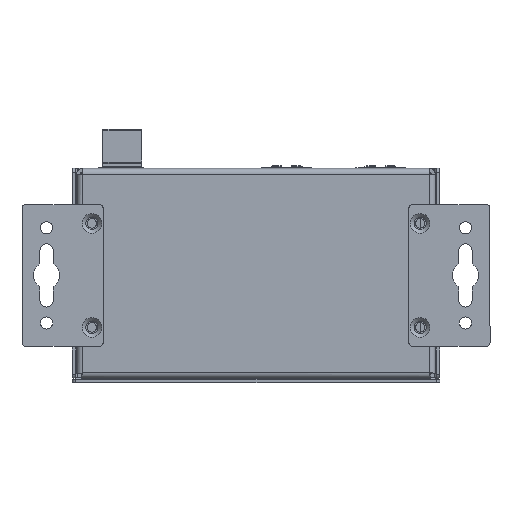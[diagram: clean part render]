
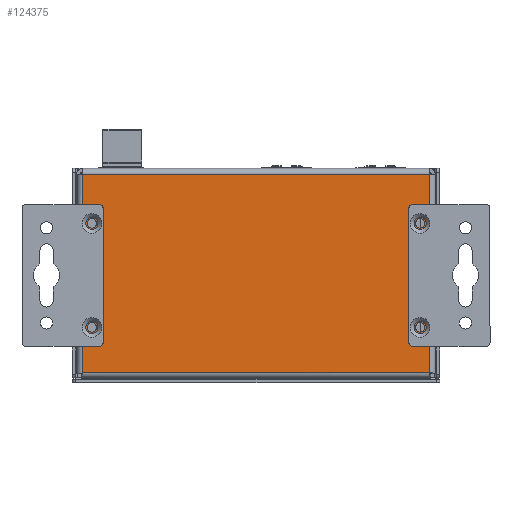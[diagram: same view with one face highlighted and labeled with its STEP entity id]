
A CAD part, front view. The second image highlights one B-rep face of the part: STEP entity #124375.
In plain terms, the highlighted planar face has unit normal (0, -1, 0).
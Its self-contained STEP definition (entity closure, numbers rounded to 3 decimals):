
#3608=FACE_BOUND('',#18688,.T.);
#3609=FACE_BOUND('',#18689,.T.);
#3610=FACE_BOUND('',#18690,.T.);
#3611=FACE_BOUND('',#18691,.T.);
#5963=CIRCLE('',#133597,1.25);
#5964=CIRCLE('',#133598,1.25);
#5965=CIRCLE('',#133599,1.25);
#5966=CIRCLE('',#133600,1.25);
#11814=FACE_OUTER_BOUND('',#18687,.T.);
#18687=EDGE_LOOP('',(#111270,#111271,#111272,#111273,#111274));
#18688=EDGE_LOOP('',(#111275));
#18689=EDGE_LOOP('',(#111276));
#18690=EDGE_LOOP('',(#111277));
#18691=EDGE_LOOP('',(#111278));
#32637=LINE('',#213545,#46989);
#32639=LINE('',#213567,#46991);
#32641=LINE('',#213586,#46993);
#32642=LINE('',#213588,#46994);
#32643=LINE('',#213589,#46995);
#46989=VECTOR('',#164459,10.);
#46991=VECTOR('',#164465,10.);
#46993=VECTOR('',#164469,10.);
#46994=VECTOR('',#164470,10.);
#46995=VECTOR('',#164471,10.);
#58947=VERTEX_POINT('',#213527);
#58948=VERTEX_POINT('',#213544);
#58950=VERTEX_POINT('',#213566);
#58952=VERTEX_POINT('',#213585);
#58953=VERTEX_POINT('',#213587);
#58954=VERTEX_POINT('',#213590);
#58955=VERTEX_POINT('',#213592);
#58956=VERTEX_POINT('',#213594);
#58957=VERTEX_POINT('',#213596);
#76547=EDGE_CURVE('',#58947,#58948,#32637,.T.);
#76551=EDGE_CURVE('',#58950,#58948,#32639,.T.);
#76554=EDGE_CURVE('',#58952,#58947,#32641,.T.);
#76555=EDGE_CURVE('',#58953,#58952,#32642,.T.);
#76556=EDGE_CURVE('',#58953,#58950,#32643,.T.);
#76557=EDGE_CURVE('',#58954,#58954,#5963,.T.);
#76558=EDGE_CURVE('',#58955,#58955,#5964,.T.);
#76559=EDGE_CURVE('',#58956,#58956,#5965,.T.);
#76560=EDGE_CURVE('',#58957,#58957,#5966,.T.);
#111270=ORIENTED_EDGE('',*,*,#76547,.F.);
#111271=ORIENTED_EDGE('',*,*,#76554,.F.);
#111272=ORIENTED_EDGE('',*,*,#76555,.F.);
#111273=ORIENTED_EDGE('',*,*,#76556,.T.);
#111274=ORIENTED_EDGE('',*,*,#76551,.T.);
#111275=ORIENTED_EDGE('',*,*,#76557,.F.);
#111276=ORIENTED_EDGE('',*,*,#76558,.F.);
#111277=ORIENTED_EDGE('',*,*,#76559,.F.);
#111278=ORIENTED_EDGE('',*,*,#76560,.F.);
#118174=PLANE('',#133596);
#124375=ADVANCED_FACE('',(#11814,#3608,#3609,#3610,#3611),#118174,.F.);
#133596=AXIS2_PLACEMENT_3D('',#213584,#164467,#164468);
#133597=AXIS2_PLACEMENT_3D('',#213591,#164472,#164473);
#133598=AXIS2_PLACEMENT_3D('',#213593,#164474,#164475);
#133599=AXIS2_PLACEMENT_3D('',#213595,#164476,#164477);
#133600=AXIS2_PLACEMENT_3D('',#213597,#164478,#164479);
#164459=DIRECTION('',(-1.,0.,0.));
#164465=DIRECTION('',(0.,0.,-1.));
#164467=DIRECTION('center_axis',(0.,1.,0.));
#164468=DIRECTION('ref_axis',(-1.,0.,0.));
#164469=DIRECTION('',(0.,0.,-1.));
#164470=DIRECTION('',(1.,0.,0.));
#164471=DIRECTION('',(0.,0.,-1.));
#164472=DIRECTION('center_axis',(0.,-1.,0.));
#164473=DIRECTION('ref_axis',(1.,0.,0.));
#164474=DIRECTION('center_axis',(0.,-1.,0.));
#164475=DIRECTION('ref_axis',(1.,0.,0.));
#164476=DIRECTION('center_axis',(0.,-1.,0.));
#164477=DIRECTION('ref_axis',(1.,0.,0.));
#164478=DIRECTION('center_axis',(0.,-1.,0.));
#164479=DIRECTION('ref_axis',(1.,0.,0.));
#213527=CARTESIAN_POINT('',(83.897,-11.977,22.955));
#213544=CARTESIAN_POINT('',(-8.103,-11.977,22.955));
#213545=CARTESIAN_POINT('',(37.897,-11.977,22.955));
#213566=CARTESIAN_POINT('',(-8.103,-11.977,75.43));
#213567=CARTESIAN_POINT('',(-8.103,-11.977,75.63));
#213584=CARTESIAN_POINT('Origin',(36.897,-11.977,75.705));
#213585=CARTESIAN_POINT('',(83.897,-11.977,75.555));
#213586=CARTESIAN_POINT('',(83.897,-11.977,63.08));
#213587=CARTESIAN_POINT('',(-8.103,-11.977,75.555));
#213588=CARTESIAN_POINT('',(36.897,-11.977,75.555));
#213589=CARTESIAN_POINT('',(-8.103,-11.977,75.63));
#213590=CARTESIAN_POINT('',(-6.853,-11.977,62.487));
#213591=CARTESIAN_POINT('Origin',(-5.603,-11.977,62.487));
#213592=CARTESIAN_POINT('',(-6.853,-11.977,34.924));
#213593=CARTESIAN_POINT('Origin',(-5.603,-11.977,34.924));
#213594=CARTESIAN_POINT('',(80.147,-11.977,34.924));
#213595=CARTESIAN_POINT('Origin',(81.397,-11.977,34.924));
#213596=CARTESIAN_POINT('',(80.147,-11.977,62.487));
#213597=CARTESIAN_POINT('Origin',(81.397,-11.977,62.487));
